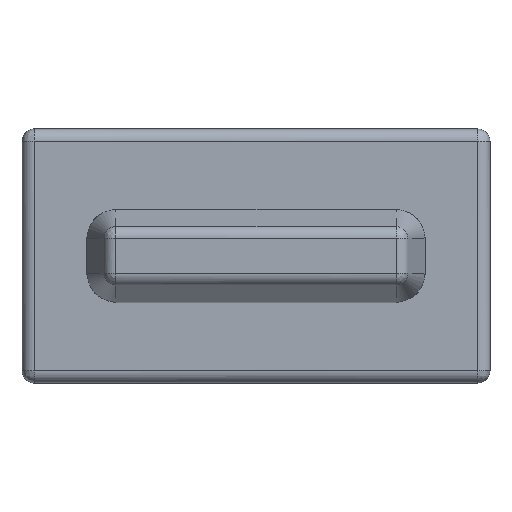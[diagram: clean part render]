
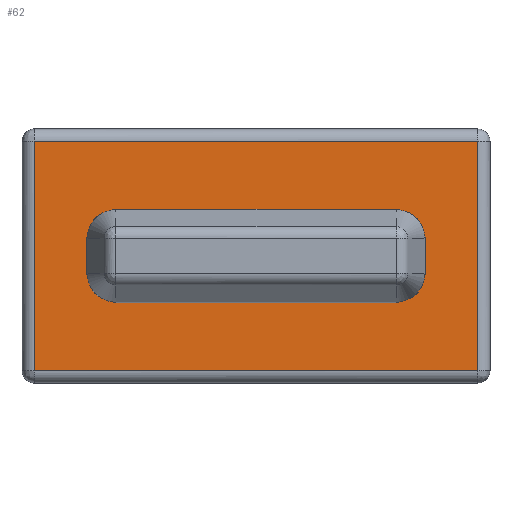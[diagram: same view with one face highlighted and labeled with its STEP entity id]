
A CAD part, top view. The second image highlights one B-rep face of the part: STEP entity #62.
In plain terms, the highlighted free-form (B-spline) face has degree [1, 1] with [2, 2] control points.
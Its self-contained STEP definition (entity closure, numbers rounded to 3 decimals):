
#62=ADVANCED_FACE('',(#132),#1416,.T.);
#132=FACE_OUTER_BOUND('',#202,.T.);
#202=EDGE_LOOP('',(#393,#394,#395,#396));
#393=ORIENTED_EDGE('',*,*,#1245,.T.);
#394=ORIENTED_EDGE('',*,*,#1246,.T.);
#395=ORIENTED_EDGE('',*,*,#1247,.T.);
#396=ORIENTED_EDGE('',*,*,#1248,.T.);
#657=PCURVE('',#1416,#921);
#658=PCURVE('',#1416,#922);
#659=PCURVE('',#1416,#923);
#660=PCURVE('',#1416,#924);
#679=PCURVE('',#1377,#943);
#683=PCURVE('',#1378,#947);
#687=PCURVE('',#1379,#951);
#691=PCURVE('',#1380,#955);
#921=DEFINITIONAL_REPRESENTATION('',(#1719),#4178);
#922=DEFINITIONAL_REPRESENTATION('',(#1721),#4178);
#923=DEFINITIONAL_REPRESENTATION('',(#1723),#4178);
#924=DEFINITIONAL_REPRESENTATION('',(#1725),#4178);
#943=DEFINITIONAL_REPRESENTATION('',(#1744),#4178);
#947=DEFINITIONAL_REPRESENTATION('',(#1748),#4178);
#951=DEFINITIONAL_REPRESENTATION('',(#1752),#4178);
#955=DEFINITIONAL_REPRESENTATION('',(#1756),#4178);
#1113=SURFACE_CURVE('',#1718,(#657,#687),.PCURVE_S1.);
#1114=SURFACE_CURVE('',#1720,(#658,#691),.PCURVE_S1.);
#1115=SURFACE_CURVE('',#1722,(#659,#679),.PCURVE_S1.);
#1116=SURFACE_CURVE('',#1724,(#660,#683),.PCURVE_S1.);
#1245=EDGE_CURVE('',#1341,#1342,#1113,.T.);
#1246=EDGE_CURVE('',#1342,#1344,#1114,.T.);
#1247=EDGE_CURVE('',#1344,#1343,#1115,.T.);
#1248=EDGE_CURVE('',#1343,#1341,#1116,.T.);
#1341=VERTEX_POINT('',#3580);
#1342=VERTEX_POINT('',#3581);
#1343=VERTEX_POINT('',#3582);
#1344=VERTEX_POINT('',#3583);
#1377=(
BOUNDED_SURFACE()
B_SPLINE_SURFACE(1,2,((#3392,#3393,#3394),(#3395,#3396,#3397)),
 .UNSPECIFIED.,.F.,.F.,.F.)
B_SPLINE_SURFACE_WITH_KNOTS((2,2),(3,3),(0.,2670.),(0.,109.956),
 .UNSPECIFIED.)
GEOMETRIC_REPRESENTATION_ITEM()
RATIONAL_B_SPLINE_SURFACE(((1.,0.707,1.),(1.,0.707,
1.)))
REPRESENTATION_ITEM('')
SURFACE()
);
#1378=(
BOUNDED_SURFACE()
B_SPLINE_SURFACE(1,2,((#3398,#3399,#3400),(#3401,#3402,#3403)),
 .UNSPECIFIED.,.F.,.F.,.F.)
B_SPLINE_SURFACE_WITH_KNOTS((2,2),(3,3),(0.,1450.),
(0.,109.956),.UNSPECIFIED.)
GEOMETRIC_REPRESENTATION_ITEM()
RATIONAL_B_SPLINE_SURFACE(((1.,0.707,1.),(1.,0.707,
1.)))
REPRESENTATION_ITEM('')
SURFACE()
);
#1379=(
BOUNDED_SURFACE()
B_SPLINE_SURFACE(1,2,((#3404,#3405,#3406),(#3407,#3408,#3409)),
 .UNSPECIFIED.,.F.,.F.,.F.)
B_SPLINE_SURFACE_WITH_KNOTS((2,2),(3,3),(0.,2670.),(0.,
109.956),.UNSPECIFIED.)
GEOMETRIC_REPRESENTATION_ITEM()
RATIONAL_B_SPLINE_SURFACE(((1.,0.707,1.),(1.,0.707,
1.)))
REPRESENTATION_ITEM('')
SURFACE()
);
#1380=(
BOUNDED_SURFACE()
B_SPLINE_SURFACE(1,2,((#3410,#3411,#3412),(#3413,#3414,#3415)),
 .UNSPECIFIED.,.F.,.F.,.F.)
B_SPLINE_SURFACE_WITH_KNOTS((2,2),(3,3),(0.,1450.),
(0.,109.956),.UNSPECIFIED.)
GEOMETRIC_REPRESENTATION_ITEM()
RATIONAL_B_SPLINE_SURFACE(((1.,0.707,1.),(1.,0.707,
1.)))
REPRESENTATION_ITEM('')
SURFACE()
);
#1416=B_SPLINE_SURFACE_WITH_KNOTS('',1,1,((#3364,#3365),(#3366,#3367)),
 .UNSPECIFIED.,.F.,.F.,.F.,(2,2),(2,2),(0.,2670.),(0.,1450.),
 .UNSPECIFIED.);
#1718=B_SPLINE_CURVE_WITH_KNOTS('',1,(#3704,#3705),.UNSPECIFIED.,.F.,.F.,
(2,2),(70.,2600.),.UNSPECIFIED.);
#1719=B_SPLINE_CURVE_WITH_KNOTS('',3,(#3706,#3707,#3708,#3709),
 .UNSPECIFIED.,.F.,.F.,(4,4),(70.,2600.),.UNSPECIFIED.);
#1720=B_SPLINE_CURVE_WITH_KNOTS('',1,(#3710,#3711),.UNSPECIFIED.,.F.,.F.,
(2,2),(70.,1380.),.UNSPECIFIED.);
#1721=B_SPLINE_CURVE_WITH_KNOTS('',3,(#3712,#3713,#3714,#3715),
 .UNSPECIFIED.,.F.,.F.,(4,4),(70.,1380.),
 .UNSPECIFIED.);
#1722=B_SPLINE_CURVE_WITH_KNOTS('',1,(#3716,#3717),.UNSPECIFIED.,.F.,.F.,
(2,2),(70.,2600.),.UNSPECIFIED.);
#1723=B_SPLINE_CURVE_WITH_KNOTS('',3,(#3718,#3719,#3720,#3721),
 .UNSPECIFIED.,.F.,.F.,(4,4),(70.,2600.),.UNSPECIFIED.);
#1724=B_SPLINE_CURVE_WITH_KNOTS('',1,(#3722,#3723),.UNSPECIFIED.,.F.,.F.,
(2,2),(70.,1380.),.UNSPECIFIED.);
#1725=B_SPLINE_CURVE_WITH_KNOTS('',3,(#3724,#3725,#3726,#3727),
 .UNSPECIFIED.,.F.,.F.,(4,4),(70.,1380.),
 .UNSPECIFIED.);
#1744=B_SPLINE_CURVE_WITH_KNOTS('',1,(#3791,#3792),.UNSPECIFIED.,.F.,.F.,
(2,2),(70.,2600.),.UNSPECIFIED.);
#1748=B_SPLINE_CURVE_WITH_KNOTS('',1,(#3805,#3806),.UNSPECIFIED.,.F.,.F.,
(2,2),(70.,1380.),.UNSPECIFIED.);
#1752=B_SPLINE_CURVE_WITH_KNOTS('',1,(#3819,#3820),.UNSPECIFIED.,.F.,.F.,
(2,2),(70.,2600.),.UNSPECIFIED.);
#1756=B_SPLINE_CURVE_WITH_KNOTS('',1,(#3833,#3834),.UNSPECIFIED.,.F.,.F.,
(2,2),(70.,1380.),.UNSPECIFIED.);
#3364=CARTESIAN_POINT('',(-1335.,-725.001,470.));
#3365=CARTESIAN_POINT('',(-1335.,724.999,470.));
#3366=CARTESIAN_POINT('',(1335.,-725.001,470.));
#3367=CARTESIAN_POINT('',(1335.,724.999,470.));
#3392=CARTESIAN_POINT('',(-1335.,-725.001,400.));
#3393=CARTESIAN_POINT('',(-1335.,-725.001,470.));
#3394=CARTESIAN_POINT('',(-1335.,-655.001,470.));
#3395=CARTESIAN_POINT('',(1335.,-725.001,400.));
#3396=CARTESIAN_POINT('',(1335.,-725.001,470.));
#3397=CARTESIAN_POINT('',(1335.,-655.001,470.));
#3398=CARTESIAN_POINT('',(1335.,-725.001,400.));
#3399=CARTESIAN_POINT('',(1335.,-725.001,470.));
#3400=CARTESIAN_POINT('',(1265.,-725.001,470.));
#3401=CARTESIAN_POINT('',(1335.,724.999,400.));
#3402=CARTESIAN_POINT('',(1335.,724.999,470.));
#3403=CARTESIAN_POINT('',(1265.,724.999,470.));
#3404=CARTESIAN_POINT('',(1335.,724.999,400.));
#3405=CARTESIAN_POINT('',(1335.,724.999,470.));
#3406=CARTESIAN_POINT('',(1335.,654.999,470.));
#3407=CARTESIAN_POINT('',(-1335.,724.999,400.));
#3408=CARTESIAN_POINT('',(-1335.,724.999,470.));
#3409=CARTESIAN_POINT('',(-1335.,654.999,470.));
#3410=CARTESIAN_POINT('',(-1335.,724.999,400.));
#3411=CARTESIAN_POINT('',(-1335.,724.999,470.));
#3412=CARTESIAN_POINT('',(-1265.,724.999,470.));
#3413=CARTESIAN_POINT('',(-1335.,-725.001,400.));
#3414=CARTESIAN_POINT('',(-1335.,-725.001,470.));
#3415=CARTESIAN_POINT('',(-1265.,-725.001,470.));
#3580=CARTESIAN_POINT('',(1265.,654.999,470.));
#3581=CARTESIAN_POINT('',(-1265.,654.999,470.));
#3582=CARTESIAN_POINT('',(1265.,-655.001,470.));
#3583=CARTESIAN_POINT('',(-1265.,-655.001,470.));
#3704=CARTESIAN_POINT('',(1265.,654.999,470.));
#3705=CARTESIAN_POINT('',(-1265.,654.999,470.));
#3706=CARTESIAN_POINT('',(2600.,1380.));
#3707=CARTESIAN_POINT('',(1756.667,1380.));
#3708=CARTESIAN_POINT('',(913.333,1380.));
#3709=CARTESIAN_POINT('',(70.,1380.));
#3710=CARTESIAN_POINT('',(-1265.,654.999,470.));
#3711=CARTESIAN_POINT('',(-1265.,-655.001,470.));
#3712=CARTESIAN_POINT('',(70.,1380.));
#3713=CARTESIAN_POINT('',(70.,943.333));
#3714=CARTESIAN_POINT('',(70.,506.667));
#3715=CARTESIAN_POINT('',(70.,70.));
#3716=CARTESIAN_POINT('',(-1265.,-655.001,470.));
#3717=CARTESIAN_POINT('',(1265.,-655.001,470.));
#3718=CARTESIAN_POINT('',(70.,70.));
#3719=CARTESIAN_POINT('',(913.333,70.));
#3720=CARTESIAN_POINT('',(1756.667,70.));
#3721=CARTESIAN_POINT('',(2600.,70.));
#3722=CARTESIAN_POINT('',(1265.,-655.001,470.));
#3723=CARTESIAN_POINT('',(1265.,654.999,470.));
#3724=CARTESIAN_POINT('',(2600.,70.));
#3725=CARTESIAN_POINT('',(2600.,506.667));
#3726=CARTESIAN_POINT('',(2600.,943.333));
#3727=CARTESIAN_POINT('',(2600.,1380.));
#3791=CARTESIAN_POINT('',(70.,109.956));
#3792=CARTESIAN_POINT('',(2600.,109.956));
#3805=CARTESIAN_POINT('',(70.,109.956));
#3806=CARTESIAN_POINT('',(1380.,109.956));
#3819=CARTESIAN_POINT('',(70.,109.956));
#3820=CARTESIAN_POINT('',(2600.,109.956));
#3833=CARTESIAN_POINT('',(70.,109.956));
#3834=CARTESIAN_POINT('',(1380.,109.956));
#4178=(
GEOMETRIC_REPRESENTATION_CONTEXT(2)
PARAMETRIC_REPRESENTATION_CONTEXT()
REPRESENTATION_CONTEXT('pspace','')
);
